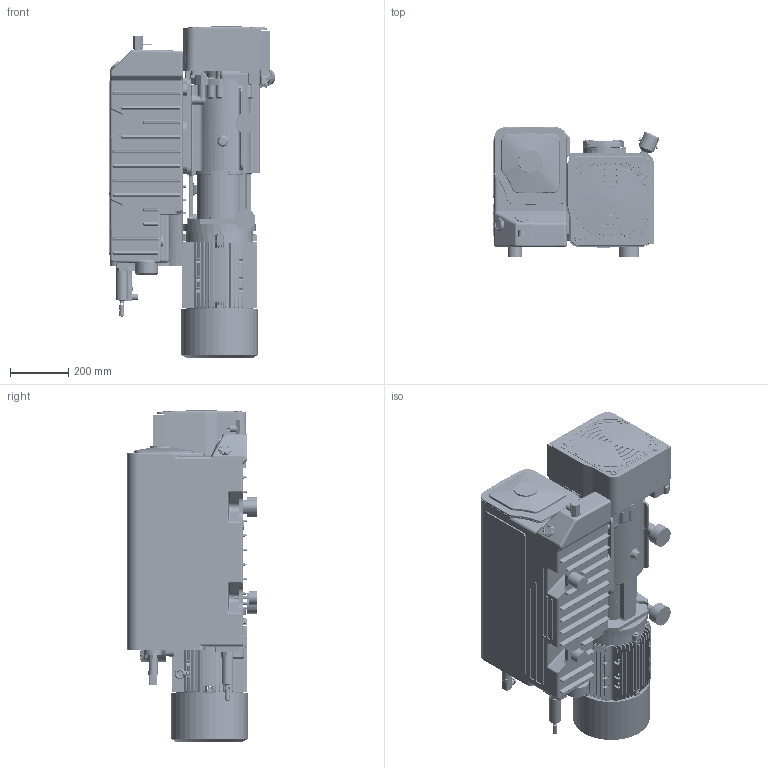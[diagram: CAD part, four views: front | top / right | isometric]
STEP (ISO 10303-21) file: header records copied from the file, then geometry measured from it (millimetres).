
FILE_DESCRIPTION((''),'2;1');
FILE_NAME('PRT0004','2012-07-06T',('LVVCSAVA'),('Copyright by Leybold GmbH'),'PRO/ENGINEER BY PARAMETRIC TECHNOLOGY CORPORATION, 2010430','PRO/ENGINEER BY PARAMETRIC TECHNOLOGY CORPORATION, 2010430','');
FILE_SCHEMA(('AUTOMOTIVE_DESIGN { 1 0 10303 214 1 1 1 1 }'));
Products named in the file (1): PRT0004
Bounding box: 573.37 x 450 x 1142.92 mm (x, y, z)
Surface area: 4761888.7 mm2 (no closed solid volume)
Topology: 0 solids, 1292 shells, 5571 faces, 17720 edges, 13190 vertices
Faces by surface type: plane 2801, cylinder 1559, bspline 670, torus 365, cone 109, sphere 63, extrusion 4
Entity records: 276152 total; most frequent: CARTESIAN_POINT 109061, DIRECTION 30535, ORIENTED_EDGE 28052, EDGE_CURVE 17712, VERTEX_POINT 13190, AXIS2_PLACEMENT_3D 10950, VECTOR 8635, LINE 8631
